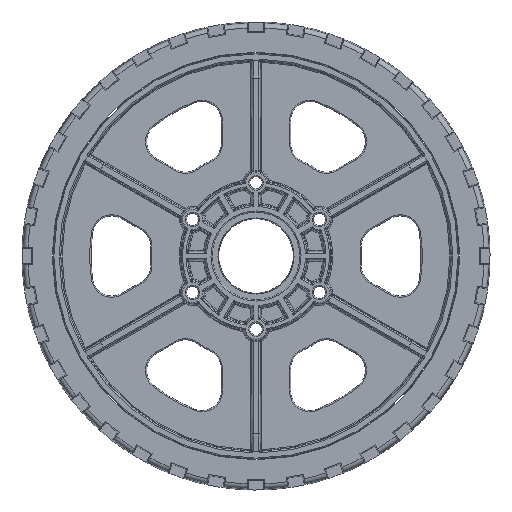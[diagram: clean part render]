
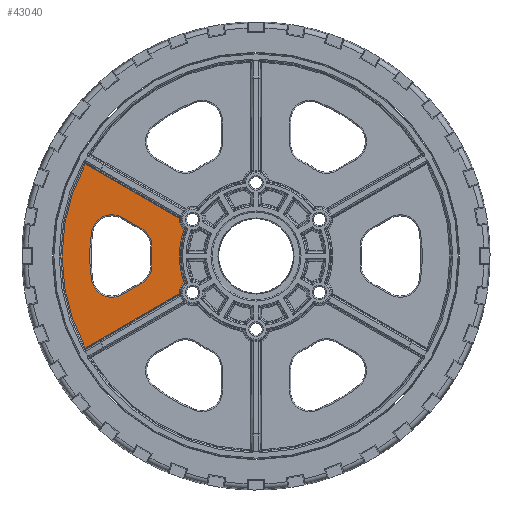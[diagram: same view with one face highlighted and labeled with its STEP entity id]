
A CAD part, left-side view. The second image highlights one B-rep face of the part: STEP entity #43040.
In plain terms, the highlighted planar face has unit normal (-1, 0, 0).
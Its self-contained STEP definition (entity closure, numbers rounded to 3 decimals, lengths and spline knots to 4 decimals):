
#3340=FACE_BOUND('',#6599,.T.);
#3620=FACE_OUTER_BOUND('',#6598,.T.);
#6598=EDGE_LOOP('',(#29117,#29118,#29119,#29120,#29121,#29122));
#6599=EDGE_LOOP('',(#29123,#29124,#29125,#29126,#29127,#29128,#29129,#29130));
#11422=LINE('',#66459,#13347);
#11423=LINE('',#66462,#13348);
#11424=LINE('',#66465,#13349);
#11425=LINE('',#66473,#13350);
#13347=VECTOR('',#52084,39.3701);
#13348=VECTOR('',#52087,39.3701);
#13349=VECTOR('',#52088,39.3701);
#13350=VECTOR('',#52095,39.3701);
#15151=CIRCLE('',#46069,0.171);
#15152=CIRCLE('',#46070,0.9826);
#15153=CIRCLE('',#46071,0.171);
#15154=CIRCLE('',#46072,2.4861);
#15155=CIRCLE('',#46073,0.265);
#15156=CIRCLE('',#46074,2.1306);
#15157=CIRCLE('',#46075,0.265);
#15158=CIRCLE('',#46076,0.265);
#15159=CIRCLE('',#46077,1.3381);
#15160=CIRCLE('',#46078,0.265);
#18520=VERTEX_POINT('',#66451);
#18521=VERTEX_POINT('',#66452);
#18522=VERTEX_POINT('',#66454);
#18523=VERTEX_POINT('',#66456);
#18524=VERTEX_POINT('',#66458);
#18525=VERTEX_POINT('',#66460);
#18526=VERTEX_POINT('',#66463);
#18527=VERTEX_POINT('',#66464);
#18528=VERTEX_POINT('',#66466);
#18529=VERTEX_POINT('',#66468);
#18530=VERTEX_POINT('',#66470);
#18531=VERTEX_POINT('',#66472);
#18532=VERTEX_POINT('',#66474);
#18533=VERTEX_POINT('',#66476);
#22345=EDGE_CURVE('',#18520,#18521,#15151,.T.);
#22346=EDGE_CURVE('',#18521,#18522,#15152,.T.);
#22347=EDGE_CURVE('',#18522,#18523,#15153,.T.);
#22348=EDGE_CURVE('',#18523,#18524,#11422,.T.);
#22349=EDGE_CURVE('',#18524,#18525,#15154,.T.);
#22350=EDGE_CURVE('',#18525,#18520,#11423,.T.);
#22351=EDGE_CURVE('',#18526,#18527,#11424,.T.);
#22352=EDGE_CURVE('',#18527,#18528,#15155,.T.);
#22353=EDGE_CURVE('',#18528,#18529,#15156,.T.);
#22354=EDGE_CURVE('',#18529,#18530,#15157,.T.);
#22355=EDGE_CURVE('',#18530,#18531,#11425,.T.);
#22356=EDGE_CURVE('',#18531,#18532,#15158,.T.);
#22357=EDGE_CURVE('',#18532,#18533,#15159,.T.);
#22358=EDGE_CURVE('',#18533,#18526,#15160,.T.);
#29117=ORIENTED_EDGE('',*,*,#22345,.T.);
#29118=ORIENTED_EDGE('',*,*,#22346,.T.);
#29119=ORIENTED_EDGE('',*,*,#22347,.T.);
#29120=ORIENTED_EDGE('',*,*,#22348,.T.);
#29121=ORIENTED_EDGE('',*,*,#22349,.T.);
#29122=ORIENTED_EDGE('',*,*,#22350,.T.);
#29123=ORIENTED_EDGE('',*,*,#22351,.T.);
#29124=ORIENTED_EDGE('',*,*,#22352,.T.);
#29125=ORIENTED_EDGE('',*,*,#22353,.T.);
#29126=ORIENTED_EDGE('',*,*,#22354,.T.);
#29127=ORIENTED_EDGE('',*,*,#22355,.T.);
#29128=ORIENTED_EDGE('',*,*,#22356,.T.);
#29129=ORIENTED_EDGE('',*,*,#22357,.T.);
#29130=ORIENTED_EDGE('',*,*,#22358,.T.);
#42437=PLANE('',#46068);
#43040=ADVANCED_FACE('',(#3620,#3340),#42437,.F.);
#46068=AXIS2_PLACEMENT_3D('',#66450,#52076,#52077);
#46069=AXIS2_PLACEMENT_3D('',#66453,#52078,#52079);
#46070=AXIS2_PLACEMENT_3D('',#66455,#52080,#52081);
#46071=AXIS2_PLACEMENT_3D('',#66457,#52082,#52083);
#46072=AXIS2_PLACEMENT_3D('',#66461,#52085,#52086);
#46073=AXIS2_PLACEMENT_3D('',#66467,#52089,#52090);
#46074=AXIS2_PLACEMENT_3D('',#66469,#52091,#52092);
#46075=AXIS2_PLACEMENT_3D('',#66471,#52093,#52094);
#46076=AXIS2_PLACEMENT_3D('',#66475,#52096,#52097);
#46077=AXIS2_PLACEMENT_3D('',#66477,#52098,#52099);
#46078=AXIS2_PLACEMENT_3D('',#66478,#52100,#52101);
#52076=DIRECTION('center_axis',(1.,0.,0.));
#52077=DIRECTION('ref_axis',(0.,0.,-1.));
#52078=DIRECTION('center_axis',(1.,0.,0.));
#52079=DIRECTION('ref_axis',(0.,0.,-1.));
#52080=DIRECTION('center_axis',(1.,0.,0.));
#52081=DIRECTION('ref_axis',(0.,0.,-1.));
#52082=DIRECTION('center_axis',(1.,0.,0.));
#52083=DIRECTION('ref_axis',(0.,0.,-1.));
#52084=DIRECTION('',(0.,0.865,0.502));
#52085=DIRECTION('center_axis',(-1.,0.,0.));
#52086=DIRECTION('ref_axis',(0.,0.,-1.));
#52087=DIRECTION('',(0.,-0.865,0.502));
#52088=DIRECTION('',(0.,0.865,-0.502));
#52089=DIRECTION('center_axis',(1.,0.,0.));
#52090=DIRECTION('ref_axis',(0.,0.,-1.));
#52091=DIRECTION('center_axis',(1.,0.,0.));
#52092=DIRECTION('ref_axis',(0.,0.,-1.));
#52093=DIRECTION('center_axis',(1.,0.,0.));
#52094=DIRECTION('ref_axis',(0.,0.,-1.));
#52095=DIRECTION('',(0.,-0.865,-0.502));
#52096=DIRECTION('center_axis',(1.,0.,0.));
#52097=DIRECTION('ref_axis',(0.,0.,-1.));
#52098=DIRECTION('center_axis',(-1.,0.,0.));
#52099=DIRECTION('ref_axis',(0.,0.,-1.));
#52100=DIRECTION('center_axis',(1.,0.,0.));
#52101=DIRECTION('ref_axis',(0.,0.,-1.));
#66450=CARTESIAN_POINT('Origin',(-0.05,0.,0.));
#66451=CARTESIAN_POINT('',(-0.05,0.9825,-0.4801));
#66452=CARTESIAN_POINT('',(-0.05,0.9225,-0.3384));
#66453=CARTESIAN_POINT('Origin',(-0.05,0.8119,-0.4687));
#66454=CARTESIAN_POINT('',(-0.05,0.9225,0.3384));
#66455=CARTESIAN_POINT('Origin',(-0.05,0.,0.));
#66456=CARTESIAN_POINT('',(-0.05,0.9825,0.4801));
#66457=CARTESIAN_POINT('Origin',(-0.05,0.8119,0.4688));
#66458=CARTESIAN_POINT('',(-0.05,2.1884,1.1797));
#66459=CARTESIAN_POINT('',(-0.05,2.2015,1.1873));
#66460=CARTESIAN_POINT('',(-0.05,2.1884,-1.1797));
#66461=CARTESIAN_POINT('Origin',(-0.05,0.,0.));
#66462=CARTESIAN_POINT('',(-0.05,0.039,0.0673));
#66463=CARTESIAN_POINT('',(-0.05,1.4657,-0.3494));
#66464=CARTESIAN_POINT('',(-0.05,1.7138,-0.4933));
#66465=CARTESIAN_POINT('',(-0.05,0.2174,0.3748));
#66466=CARTESIAN_POINT('',(-0.05,2.1092,-0.3016));
#66467=CARTESIAN_POINT('Origin',(-0.05,1.8468,-0.2641));
#66468=CARTESIAN_POINT('',(-0.05,2.1092,0.3016));
#66469=CARTESIAN_POINT('Origin',(-0.05,0.,0.));
#66470=CARTESIAN_POINT('',(-0.05,1.7138,0.4933));
#66471=CARTESIAN_POINT('Origin',(-0.05,1.8468,0.2641));
#66472=CARTESIAN_POINT('',(-0.05,1.4657,0.3494));
#66473=CARTESIAN_POINT('',(-0.05,0.2174,-0.3748));
#66474=CARTESIAN_POINT('',(-0.05,1.3344,0.1003));
#66475=CARTESIAN_POINT('Origin',(-0.05,1.5986,0.1201));
#66476=CARTESIAN_POINT('',(-0.05,1.3344,-0.1003));
#66477=CARTESIAN_POINT('Origin',(-0.05,0.,0.));
#66478=CARTESIAN_POINT('Origin',(-0.05,1.5986,-0.1201));
